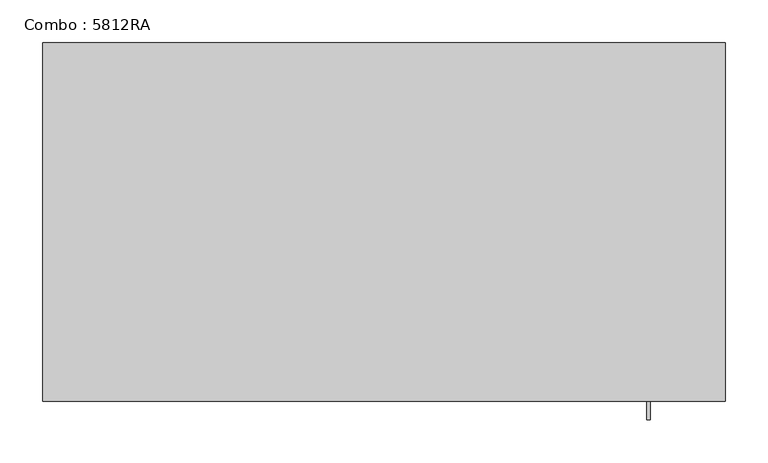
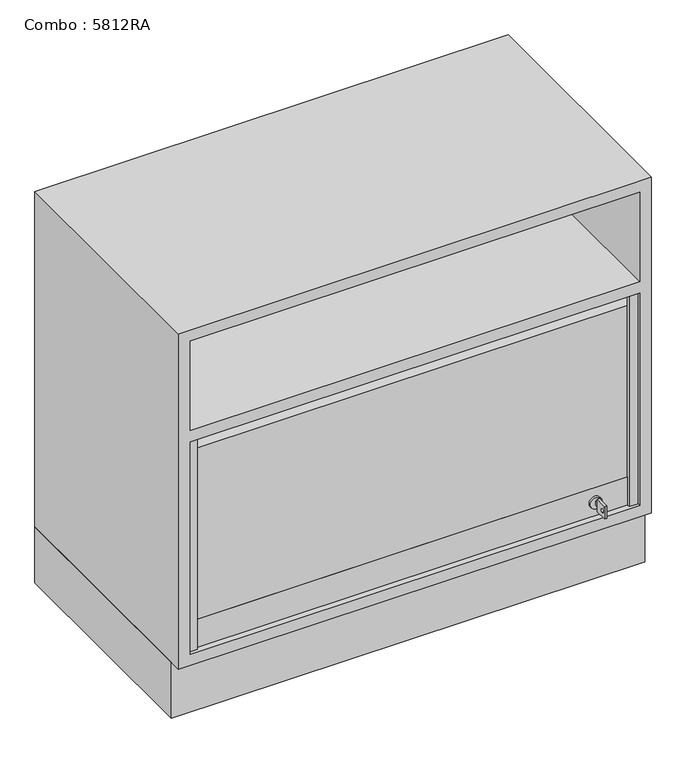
"""IFC4 building model written with IfcOpenShell, lengths in millimetres: furniture geometry, Combo : 5812RA."""

from ifc_helpers import new_model, si_unit, point, frame, frame_2d, origin, origin_with_axes, place, context, project, spatial, polyline, circle_curve, trimmed, segment, composite_curve, outline, extrude, faceted_brep, source, transform, mapped, element, save


def combo_5812ra_2ba49a49(model_context):
    return source(origin(), model_context, "Body", "SolidModel", [
        extrude(outline(polyline([(-400.0, -400.0), (-400.0, 0.0), (400.0, 0.0), (400.0, -400.0), (-400.0, -400.0)])), origin_with_axes(), (0.0, 0.0, 1.0), 100.0),
        extrude(outline(composite_curve([segment(trimmed(circle_curve(frame_2d((145.0, 310.0)), 10.0), [point((145.0, 300.0))], [point((145.0, 320.0))], False, "CARTESIAN"), True, "CONTINUOUS"), segment(trimmed(circle_curve(frame_2d((145.0, 310.0)), 10.0), [point((145.0, 320.0))], [point((145.0, 300.0))], False, "CARTESIAN"), True, "CONTINUOUS")], self_intersect=False)), frame((0.0, -414.0, 0.0), z_axis=(0.0, 1.0, 0.0), x_axis=(0.0, 0.0, 1.0)), (0.0, 0.0, 1.0), 4.0),
        extrude(outline(polyline([(-442.0, 134.014113), (-442.0, 156.0), (-420.0, 156.0), (-420.0, 134.014113), (-442.0, 134.014113)]), holes=[composite_curve([segment(trimmed(circle_curve(frame_2d((-435.75, 145.0070565)), 3.2230706), [point((-435.75, 148.2301271))], [point((-435.75, 141.7839859))], True, "CARTESIAN"), True, "CONTINUOUS"), segment(trimmed(circle_curve(frame_2d((-435.75, 145.0070565)), 3.2230706), [point((-435.75, 141.7839859))], [point((-435.75, 148.2301271))], True, "CARTESIAN"), True, "CONTINUOUS")], self_intersect=False)]), frame((308.0, 0.0, 0.0), z_axis=(1.0, 0.0, 0.0), x_axis=(0.0, 1.0, 0.0)), (0.0, 0.0, 1.0), 4.0416064),
        extrude(outline(polyline([(311.0416064, -420.0), (309.0, -420.0), (309.0, -414.0), (311.0416064, -414.0), (311.0416064, -420.0)])), frame((0.0, 0.0, 141.014113), z_axis=(0.0, 0.0, 1.0), x_axis=(1.0, 0.0, 0.0)), (0.0, 0.0, 1.0), 7.985887),
        extrude(outline(polyline([(380.0, -400.0), (380.0, -410.0), (-380.0, -410.0), (-380.0, -400.0), (380.0, -400.0)])), frame((0.0, 0.0, 120.0), z_axis=(0.0, 0.0, 1.0), x_axis=(1.0, 0.0, 0.0)), (0.0, 0.0, 1.0), 50.0),
        extrude(outline(polyline([(-365.0, -415.0), (-380.0, -415.0), (-380.0, -410.0), (-365.0, -410.0), (-365.0, -415.0)])), frame((0.0, 0.0, 120.0), z_axis=(0.0, 0.0, 1.0), x_axis=(1.0, 0.0, 0.0)), (0.0, 0.0, 1.0), 380.0),
        extrude(outline(polyline([(380.0, -415.0), (365.0, -415.0), (365.0, -410.0), (380.0, -410.0), (380.0, -415.0)])), frame((0.0, 0.0, 120.0), z_axis=(0.0, 0.0, 1.0), x_axis=(1.0, 0.0, 0.0)), (0.0, 0.0, 1.0), 380.0),
        extrude(outline(composite_curve([segment(trimmed(circle_curve(frame_2d((-390.0, 476.5)), 20.0), [point((-410.0, 476.5))], [point((-390.0, 496.5))], False, "CARTESIAN"), True, "CONTINUOUS"), segment(polyline([(-390.0, 496.5), (-355.0, 496.5), (-355.0, 486.5), (-390.0, 486.5)]), True, "CONTINUOUS"), segment(trimmed(circle_curve(frame_2d((-390.0, 476.5)), 10.0), [point((-390.0, 486.5))], [point((-400.0, 476.5))], True, "CARTESIAN"), True, "CONTINUOUS"), segment(polyline([(-400.0, 476.5), (-400.0, 170.0), (-410.0, 170.0), (-410.0, 476.5)]), True, "CONTINUOUS")], self_intersect=False)), frame((-380.0, 0.0, 0.0), z_axis=(1.0, 0.0, 0.0), x_axis=(0.0, 1.0, 0.0)), (0.0, 0.0, 1.0), 760.0),
        faceted_brep([(400.0, 0.0, 700.0), (-400.0, 0.0, 700.0), (-400.0, -420.0, 700.0), (400.0, -420.0, 700.0), (-400.0, 0.0, 100.0), (400.0, 0.0, 100.0), (400.0, -420.0, 100.0), (-400.0, -420.0, 100.0), (380.0, -420.0, 120.0), (-380.0, -420.0, 120.0), (-380.0, -420.0, 500.0), (380.0, -420.0, 500.0), (380.0, -420.0, 680.0), (380.0, -420.0, 520.0), (-380.0, -420.0, 520.0), (-380.0, -420.0, 680.0), (380.0, -20.0, 120.0), (-380.0, -20.0, 120.0), (380.0, -20.0, 680.0), (380.0, -20.0, 520.0), (380.0, -20.0, 500.0), (-380.0, -20.0, 500.0), (-380.0, -20.0, 680.0), (-380.0, -20.0, 520.0)], [[[0, 1, 2, 3]], [[4, 5, 6, 7]], [[1, 0, 5, 4]], [[2, 1, 4, 7]], [[3, 2, 7, 6], [8, 9, 10, 11], [12, 13, 14, 15]], [[0, 3, 6, 5]], [[16, 17, 9, 8]], [[18, 19, 13, 12]], [[16, 20, 21, 17]], [[20, 16, 8, 11]], [[21, 20, 11, 10]], [[17, 21, 10, 9]], [[19, 18, 22, 23]], [[22, 18, 12, 15]], [[23, 22, 15, 14]], [[19, 23, 14, 13]]]),
    ])


if __name__ == "__main__":
    model = new_model("IFC4")
    model_context = context("Model", 3, world=origin())
    ifc_project = project(units=[si_unit("LENGTHUNIT", "METRE", prefix="MILLI")], contexts=[model_context])
    site = spatial("IfcSite", under=ifc_project)
    building = spatial("IfcBuilding", under=site)
    placement = place(None, origin())
    combo_5812ra_shape = combo_5812ra_2ba49a49(model_context)
    element("IfcFurniture", 1, ObjectType="Combo : 5812RA", at=placement, inside=building, context=model_context, shape_type="MappedRepresentation", body=[
        mapped(combo_5812ra_shape, transform((0.0, 0.0, 0.0), x_axis=(1.0, 0.0, 0.0), y_axis=(0.0, 1.0, 0.0), z_axis=(0.0, 0.0, 1.0))),
    ])
    save(model, "model.ifc")
